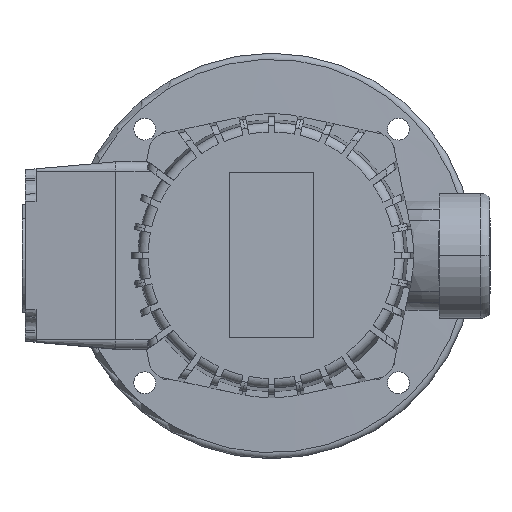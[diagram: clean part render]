
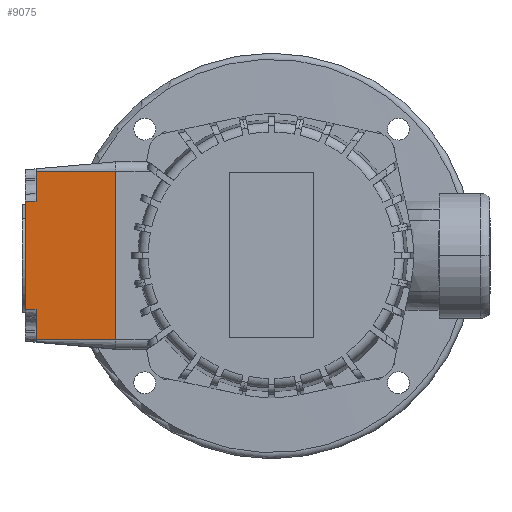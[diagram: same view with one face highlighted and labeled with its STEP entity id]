
A CAD part, top view. The second image highlights one B-rep face of the part: STEP entity #9075.
In plain terms, the highlighted planar face has unit normal (-0.087, 0, 0.996).
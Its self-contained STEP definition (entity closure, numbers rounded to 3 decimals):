
#3449=VERTEX_POINT('',#9959);
#3573=VERTEX_POINT('',#10094);
#3767=VERTEX_POINT('',#10308);
#4403=VERTEX_POINT('',#10996);
#4661=VERTEX_POINT('',#11282);
#4947=EDGE_CURVE('',#7219,#7007,#11603,.T.);
#5097=EDGE_CURVE('',#7613,#4661,#11763,.T.);
#5449=EDGE_CURVE('',#3573,#4403,#12144,.T.);
#5535=EDGE_CURVE('',#7219,#3767,#12237,.T.);
#6267=EDGE_CURVE('',#4403,#3449,#13048,.T.);
#7007=VERTEX_POINT('',#13862);
#7219=VERTEX_POINT('',#14101);
#7613=VERTEX_POINT('',#14523);
#8481=EDGE_CURVE('',#3767,#7613,#15499,.T.);
#8719=EDGE_CURVE('',#4661,#3573,#15762,.T.);
#9075=ADVANCED_FACE('',(#16152),#16153,.T.);
#9187=EDGE_CURVE('',#3449,#7007,#16272,.T.);
#9959=CARTESIAN_POINT('',(-75.5,-17.353,60.269));
#10094=CARTESIAN_POINT('',(-79.0,17.326,59.963));
#10308=CARTESIAN_POINT('',(-50.0,27.0,62.5));
#10996=CARTESIAN_POINT('',(-79.0,-17.326,59.963));
#11282=CARTESIAN_POINT('',(-75.5,17.353,60.269));
#11603=LINE('',#21125,#21126);
#11763=LINE('',#21390,#21391);
#12144=LINE('',#22236,#22237);
#12237=LINE('',#22424,#22425);
#13048=B_SPLINE_CURVE_WITH_KNOTS('',2,(#23892,#23893,#23894),.UNSPECIFIED.,.F.,.F.,(3,3),(0.0,3.513),.UNSPECIFIED.);
#13862=CARTESIAN_POINT('',(-75.5,-27.0,60.269));
#14101=CARTESIAN_POINT('',(-50.0,-27.0,62.5));
#14523=CARTESIAN_POINT('',(-75.5,27.0,60.269));
#15499=LINE('',#29026,#29027);
#15762=B_SPLINE_CURVE_WITH_KNOTS('',2,(#29592,#29593,#29594),.UNSPECIFIED.,.F.,.F.,(3,3),(0.0,3.513),.UNSPECIFIED.);
#16152=FACE_OUTER_BOUND('',#30419,.T.);
#16153=PLANE('',#30420);
#16272=LINE('',#30729,#30730);
#21125=CARTESIAN_POINT('',(-50.0,-27.0,62.5));
#21126=VECTOR('',#34113,1.0);
#21390=CARTESIAN_POINT('',(-75.5,25.811,60.269));
#21391=VECTOR('',#34268,1.0);
#22236=CARTESIAN_POINT('',(-79.0,-27.0,59.963));
#22237=VECTOR('',#34628,1.0);
#22424=CARTESIAN_POINT('',(-50.0,-27.0,62.5));
#22425=VECTOR('',#34728,1.0);
#23892=CARTESIAN_POINT('',(-79.0,-17.326,59.963));
#23893=CARTESIAN_POINT('',(-77.297,-17.339,60.112));
#23894=CARTESIAN_POINT('',(-75.5,-17.353,60.269));
#29026=CARTESIAN_POINT('',(-50.0,27.0,62.5));
#29027=VECTOR('',#38567,1.0);
#29592=CARTESIAN_POINT('',(-75.5,17.353,60.269));
#29593=CARTESIAN_POINT('',(-77.297,17.339,60.112));
#29594=CARTESIAN_POINT('',(-79.0,17.326,59.963));
#30419=EDGE_LOOP('',(#39319,#39320,#39321,#39322,#39323,#39324,#39325,#39326));
#30420=AXIS2_PLACEMENT_3D('',#39327,#39328,#39329);
#30729=CARTESIAN_POINT('',(-75.5,1.189,60.269));
#30730=VECTOR('',#39545,1.0);
#34113=DIRECTION('',(-0.996,0.,-0.087));
#34268=DIRECTION('',(0.0,-1.0,0.0));
#34628=DIRECTION('',(0.0,-1.0,0.0));
#34728=DIRECTION('',(0.0,1.0,0.0));
#38567=DIRECTION('',(-0.996,0.0,-0.087));
#39319=ORIENTED_EDGE('',*,*,#9187,.T.);
#39320=ORIENTED_EDGE('',*,*,#4947,.F.);
#39321=ORIENTED_EDGE('',*,*,#5535,.T.);
#39322=ORIENTED_EDGE('',*,*,#8481,.T.);
#39323=ORIENTED_EDGE('',*,*,#5097,.T.);
#39324=ORIENTED_EDGE('',*,*,#8719,.T.);
#39325=ORIENTED_EDGE('',*,*,#5449,.T.);
#39326=ORIENTED_EDGE('',*,*,#6267,.T.);
#39327=CARTESIAN_POINT('',(-50.0,27.0,62.5));
#39328=DIRECTION('',(-0.087,0.0,0.996));
#39329=DIRECTION('',(0.0,1.0,0.0));
#39545=DIRECTION('',(0.0,-1.0,0.0));
